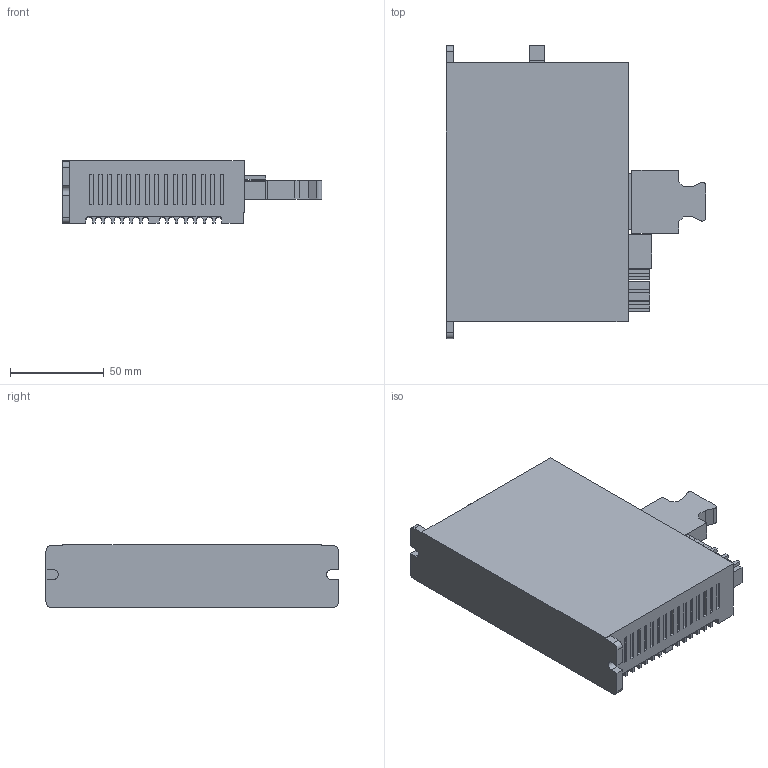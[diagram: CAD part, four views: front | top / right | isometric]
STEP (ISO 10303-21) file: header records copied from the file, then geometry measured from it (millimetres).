
FILE_DESCRIPTION (( 'STEP AP214' ), '1' );
FILE_NAME ('SVD100EC_3D_250527.STEP', '2025-05-27T18:02:29', ( '' ), ( '' ), 'SwSTEP 2.0', 'SolidWorks 2021', '' );
FILE_SCHEMA (( 'AUTOMOTIVE_DESIGN' ));
Length unit declared in the file: millimetre
Products named in the file (1): SVD100EC_3D_250527
Bounding box: 138.5 x 156.3 x 33.5 mm (x, y, z)
Volume: 443687 mm3; surface area: 63915.6 mm2
Topology: 1 solids, 1 shells, 651 faces, 1675 edges, 1106 vertices
Faces by surface type: plane 577, cylinder 74
Entity records: 19507 total; most frequent: CARTESIAN_POINT 3433, ORIENTED_EDGE 3350, DIRECTION 3127, EDGE_CURVE 1675, LINE 1527, VECTOR 1527, VERTEX_POINT 1106, AXIS2_PLACEMENT_3D 800
